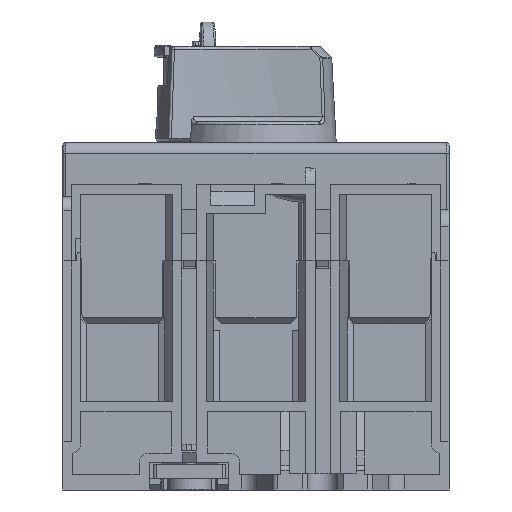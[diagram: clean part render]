
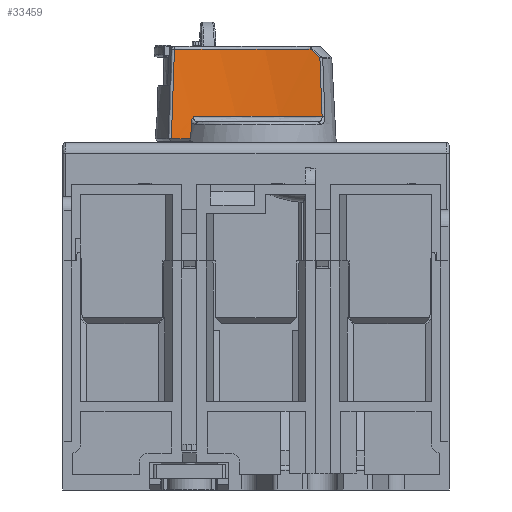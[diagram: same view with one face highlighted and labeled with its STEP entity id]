
A CAD part, left-side view. The second image highlights one B-rep face of the part: STEP entity #33459.
In plain terms, the highlighted conical face has half-angle 2 degrees and reference radius 65.816 mm.
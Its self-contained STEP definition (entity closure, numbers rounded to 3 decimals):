
#2201 = CARTESIAN_POINT ( 'NONE',  ( -64.91, 216.106, 74.217 ) ) ;
#2864 = CARTESIAN_POINT ( 'NONE',  ( -1.469, 233.626, 74.217 ) ) ;
#3844 = CARTESIAN_POINT ( 'NONE',  ( -1.167, 230.587, 61.389 ) ) ;
#4015 = CARTESIAN_POINT ( 'NONE',  ( -64.91, 216.106, 74.217 ) ) ;
#4335 = CARTESIAN_POINT ( 'NONE',  ( -1.137, 230.499, 61.717 ) ) ;
#4436 = B_SPLINE_CURVE_WITH_KNOTS ( 'NONE', 3,
 ( #27745, #58110, #25800, #78607, #56173, #57638, #26779, #65105, #42208, #72607, #4335, #88034, #10341, #79101, #34739, #10823, #95491, #41235, #87070, #18794, #50160, #3844, #97210, #90262, #98194 ),
 .UNSPECIFIED., .F., .F.,
 ( 4, 2, 2, 1, 1, 2, 2, 2, 2, 1, 1, 1, 2, 2, 4 ),
 ( 0., 0.25, 0.375, 0.437, 0.469, 0.484, 0.5, 0.625, 0.75, 0.812, 0.844, 0.859, 0.867, 0.875, 1. ),
 .UNSPECIFIED. ) ;
#4777 = DIRECTION ( 'NONE',  ( 0., 0., 1. ) ) ;
#8595 = VERTEX_POINT ( 'NONE', #98542 ) ;
#8719 = ORIENTED_EDGE ( 'NONE', *, *, #75312, .F. ) ;
#10202 = CARTESIAN_POINT ( 'NONE',  ( -1.061, 230.239, 62.165 ) ) ;
#10341 = CARTESIAN_POINT ( 'NONE',  ( -1.147, 230.529, 61.639 ) ) ;
#10823 = CARTESIAN_POINT ( 'NONE',  ( -1.161, 230.573, 61.477 ) ) ;
#11512 = AXIS2_PLACEMENT_3D ( 'NONE', #2201, #17640, #14813 ) ;
#13275 = VERTEX_POINT ( 'NONE', #44080 ) ;
#14813 = DIRECTION ( 'NONE',  ( -0.035, 0.999, 0. ) ) ;
#15068 = EDGE_CURVE ( 'NONE', #66037, #34855, #92086, .T. ) ;
#15447 = EDGE_CURVE ( 'NONE', #67378, #24801, #19470, .T. ) ;
#15904 = AXIS2_PLACEMENT_3D ( 'NONE', #73048, #4777, #95934 ) ;
#16244 = EDGE_LOOP ( 'NONE', ( #95793, #8719, #36060, #53678, #56914, #69980, #27462, #87178 ) ) ;
#17640 = DIRECTION ( 'NONE',  ( 0., 0., -1. ) ) ;
#18305 = CARTESIAN_POINT ( 'NONE',  ( -1.714, 233.811, 68.878 ) ) ;
#18794 = CARTESIAN_POINT ( 'NONE',  ( -1.167, 230.586, 61.394 ) ) ;
#19091 = AXIS2_PLACEMENT_3D ( 'NONE', #90940, #22688, #53558 ) ;
#19372 = CARTESIAN_POINT ( 'NONE',  ( -1.218, 230.632, 60.25 ) ) ;
#19470 = CIRCLE ( 'NONE', #11512, 65.816 ) ;
#21130 = EDGE_CURVE ( 'NONE', #8595, #13275, #75247, .T. ) ;
#22688 = DIRECTION ( 'NONE',  ( 0., 0., 1. ) ) ;
#24801 = VERTEX_POINT ( 'NONE', #55896 ) ;
#25800 = CARTESIAN_POINT ( 'NONE',  ( -1.097, 230.374, 61.972 ) ) ;
#26779 = CARTESIAN_POINT ( 'NONE',  ( -1.132, 230.484, 61.755 ) ) ;
#27462 = ORIENTED_EDGE ( 'NONE', *, *, #75253, .F. ) ;
#27745 = CARTESIAN_POINT ( 'NONE',  ( -1.061, 230.239, 62.165 ) ) ;
#33443 = FACE_OUTER_BOUND ( 'NONE', #16244, .T. ) ;
#33459 = ADVANCED_FACE ( 'NONE', ( #33443 ), #37189, .F. ) ;
#34739 = CARTESIAN_POINT ( 'NONE',  ( -1.157, 230.561, 61.531 ) ) ;
#34855 = VERTEX_POINT ( 'NONE', #35748 ) ;
#35748 = CARTESIAN_POINT ( 'NONE',  ( -1.307, 230.7, 58.2 ) ) ;
#36060 = ORIENTED_EDGE ( 'NONE', *, *, #69226, .F. ) ;
#36589 = CIRCLE ( 'NONE', #15904, 65.395 ) ;
#37189 = CONICAL_SURFACE ( 'NONE', #58083, 65.816, 0.035 ) ;
#41235 = CARTESIAN_POINT ( 'NONE',  ( -1.165, 230.583, 61.417 ) ) ;
#42208 = CARTESIAN_POINT ( 'NONE',  ( -1.136, 230.496, 61.724 ) ) ;
#44080 = CARTESIAN_POINT ( 'NONE',  ( -0.126, 207.195, 62.165 ) ) ;
#47155 = B_SPLINE_CURVE_WITH_KNOTS ( 'NONE', 3,
 ( #70818, #62338, #92752, #49366 ),
 .UNSPECIFIED., .F., .F.,
 ( 4, 4 ),
 ( 0., 1. ),
 .UNSPECIFIED. ) ;
#48365 = DIRECTION ( 'NONE',  ( 0., 0., 1. ) ) ;
#49274 = CARTESIAN_POINT ( 'NONE',  ( -1.307, 230.7, 58.2 ) ) ;
#49366 = CARTESIAN_POINT ( 'NONE',  ( 0.303, 207.592, 72.809 ) ) ;
#50160 = CARTESIAN_POINT ( 'NONE',  ( -1.167, 230.587, 61.389 ) ) ;
#53558 = DIRECTION ( 'NONE',  ( -0.035, 0.999, 0. ) ) ;
#53678 = ORIENTED_EDGE ( 'NONE', *, *, #21130, .F. ) ;
#55896 = CARTESIAN_POINT ( 'NONE',  ( 0.539, 209.175, 74.217 ) ) ;
#56173 = CARTESIAN_POINT ( 'NONE',  ( -1.122, 230.453, 61.822 ) ) ;
#56754 = CARTESIAN_POINT ( 'NONE',  ( -1.262, 230.666, 59.225 ) ) ;
#56914 = ORIENTED_EDGE ( 'NONE', *, *, #95575, .F. ) ;
#57576 = CARTESIAN_POINT ( 'NONE',  ( 0.018, 207.326, 65.713 ) ) ;
#57638 = CARTESIAN_POINT ( 'NONE',  ( -1.129, 230.474, 61.776 ) ) ;
#58083 = AXIS2_PLACEMENT_3D ( 'NONE', #4015, #48365, #64782 ) ;
#58110 = CARTESIAN_POINT ( 'NONE',  ( -1.082, 230.315, 62.062 ) ) ;
#58528 = CARTESIAN_POINT ( 'NONE',  ( -0.126, 207.195, 62.165 ) ) ;
#62338 = CARTESIAN_POINT ( 'NONE',  ( 0.467, 208.643, 73.752 ) ) ;
#63516 = CARTESIAN_POINT ( 'NONE',  ( -1.173, 230.597, 61.276 ) ) ;
#63599 = CIRCLE ( 'NONE', #19091, 65.256 ) ;
#64782 = DIRECTION ( 'NONE',  ( -0.035, 0.999, 0. ) ) ;
#65047 = CARTESIAN_POINT ( 'NONE',  ( 0.16, 207.459, 69.261 ) ) ;
#65105 = CARTESIAN_POINT ( 'NONE',  ( -1.135, 230.493, 61.733 ) ) ;
#66037 = VERTEX_POINT ( 'NONE', #63516 ) ;
#67258 = CARTESIAN_POINT ( 'NONE',  ( -1.469, 233.626, 74.217 ) ) ;
#67378 = VERTEX_POINT ( 'NONE', #67258 ) ;
#68679 = B_SPLINE_CURVE_WITH_KNOTS ( 'NONE', 3,
 ( #71139, #86582, #18305, #2864 ),
 .UNSPECIFIED., .F., .F.,
 ( 4, 4 ),
 ( 0., 1. ),
 .UNSPECIFIED. ) ;
#69226 = EDGE_CURVE ( 'NONE', #13275, #70861, #36589, .T. ) ;
#69367 = EDGE_CURVE ( 'NONE', #34855, #96417, #63599, .T. ) ;
#69980 = ORIENTED_EDGE ( 'NONE', *, *, #15447, .F. ) ;
#70818 = CARTESIAN_POINT ( 'NONE',  ( 0.539, 209.175, 74.217 ) ) ;
#70861 = VERTEX_POINT ( 'NONE', #10202 ) ;
#71139 = CARTESIAN_POINT ( 'NONE',  ( -2.205, 234.173, 58.2 ) ) ;
#72607 = CARTESIAN_POINT ( 'NONE',  ( -1.137, 230.499, 61.718 ) ) ;
#73023 = CARTESIAN_POINT ( 'NONE',  ( 0.303, 207.592, 72.809 ) ) ;
#73048 = CARTESIAN_POINT ( 'NONE',  ( -64.91, 216.106, 62.165 ) ) ;
#75247 = B_SPLINE_CURVE_WITH_KNOTS ( 'NONE', 3,
 ( #73023, #65047, #57576, #58528 ),
 .UNSPECIFIED., .F., .F.,
 ( 4, 4 ),
 ( 0., 1. ),
 .UNSPECIFIED. ) ;
#75253 = EDGE_CURVE ( 'NONE', #96417, #67378, #68679, .T. ) ;
#75312 = EDGE_CURVE ( 'NONE', #70861, #66037, #4436, .T. ) ;
#78607 = CARTESIAN_POINT ( 'NONE',  ( -1.116, 230.436, 61.857 ) ) ;
#79101 = CARTESIAN_POINT ( 'NONE',  ( -1.154, 230.552, 61.566 ) ) ;
#86582 = CARTESIAN_POINT ( 'NONE',  ( -1.959, 233.993, 63.539 ) ) ;
#87070 = CARTESIAN_POINT ( 'NONE',  ( -1.166, 230.586, 61.401 ) ) ;
#87178 = ORIENTED_EDGE ( 'NONE', *, *, #69367, .F. ) ;
#87635 = CARTESIAN_POINT ( 'NONE',  ( -1.173, 230.597, 61.276 ) ) ;
#88034 = CARTESIAN_POINT ( 'NONE',  ( -1.142, 230.516, 61.676 ) ) ;
#90262 = CARTESIAN_POINT ( 'NONE',  ( -1.175, 230.594, 61.281 ) ) ;
#90940 = CARTESIAN_POINT ( 'NONE',  ( -64.91, 216.106, 58.2 ) ) ;
#92086 = B_SPLINE_CURVE_WITH_KNOTS ( 'NONE', 3,
 ( #87635, #19372, #56754, #49274 ),
 .UNSPECIFIED., .F., .F.,
 ( 4, 4 ),
 ( 0., 1. ),
 .UNSPECIFIED. ) ;
#92752 = CARTESIAN_POINT ( 'NONE',  ( 0.388, 208.116, 73.282 ) ) ;
#93485 = CARTESIAN_POINT ( 'NONE',  ( -2.205, 234.173, 58.2 ) ) ;
#95491 = CARTESIAN_POINT ( 'NONE',  ( -1.163, 230.578, 61.449 ) ) ;
#95575 = EDGE_CURVE ( 'NONE', #24801, #8595, #47155, .T. ) ;
#95793 = ORIENTED_EDGE ( 'NONE', *, *, #15068, .F. ) ;
#95934 = DIRECTION ( 'NONE',  ( -0.035, 0.999, 0. ) ) ;
#96417 = VERTEX_POINT ( 'NONE', #93485 ) ;
#97210 = CARTESIAN_POINT ( 'NONE',  ( -1.171, 230.596, 61.317 ) ) ;
#98194 = CARTESIAN_POINT ( 'NONE',  ( -1.173, 230.597, 61.276 ) ) ;
#98542 = CARTESIAN_POINT ( 'NONE',  ( 0.303, 207.592, 72.809 ) ) ;
